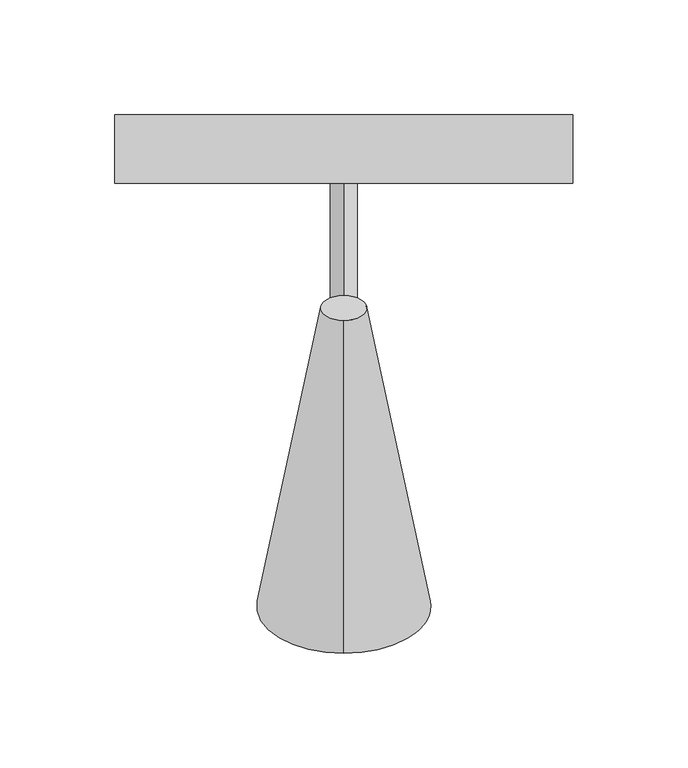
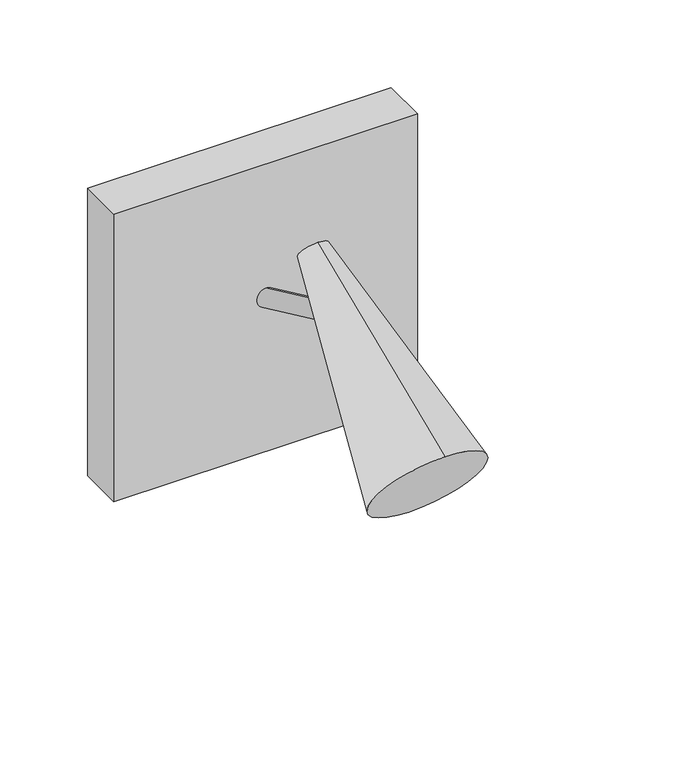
"""IFC4 building model written with IfcOpenShell, lengths in millimetres: proxy geometry, Videoüberwachungsanlage : Videoüberwachungsanlage."""

from ifc_helpers import new_model, si_unit, point, frame, origin, origin_2d, place, context, project, spatial, polyline, circle_curve, trimmed, segment, composite_curve, outline, extrude, source, transform, mapped, element, save
from ifc_brep_helpers import plane_surface, revolved_surface, advanced_brep


def electrical_fixtures_0368c62d(model_context):
    return source(origin(), model_context, "Body", "SolidModel", [
        extrude(outline(polyline([(100.0, 0.0), (100.0, -30.0), (-100.0, -30.0), (-100.0, 0.0), (100.0, 0.0)])), frame((0.0, 0.0, 1800.0), z_axis=(0.0, 0.0, 1.0), x_axis=(1.0, 0.0, 0.0)), (0.0, 0.0, 1.0), 200.0),
        extrude(outline(composite_curve([segment(trimmed(circle_curve(origin_2d(), 6.0), [point((0.0, 6.0))], [point((0.0, -6.0))], False, "CARTESIAN"), True, "CONTINUOUS"), segment(trimmed(circle_curve(origin_2d(), 6.0), [point((0.0, -6.0))], [point((0.0, 6.0))], False, "CARTESIAN"), True, "CONTINUOUS")], self_intersect=False)), frame((0.0, -14.5357096, 1900.0), z_axis=(0.0, -0.9063077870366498, 0.42261826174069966), x_axis=(-1.0, 0.0, 0.0)), (0.0, 0.0, 1.0), 118.0),
        advanced_brep(
        [(0.0, -193.6883639, 1857.0630731), (0.0, -235.0809306, 1920.8020363), (0.0, -78.9443189, 1964.9648994), (0.0, -89.8370996, 1981.7383108)],
        [
            (0, 1, circle_curve(frame((0.0, -214.3846473, 1888.9325547), z_axis=(0.0, -0.8386705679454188, -0.5446390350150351), x_axis=(0.0, 0.5446390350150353, -0.8386705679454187)), 38.0)),
            (1, 0, circle_curve(frame((0.0, -214.3846473, 1888.9325547), z_axis=(0.0, -0.8386705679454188, -0.5446390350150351), x_axis=(0.0, -0.5446390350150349, 0.8386705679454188)), 38.0)),
            (2, 3, circle_curve(frame((0.0, -84.3907092, 1973.3516051), z_axis=(0.0, 0.8386705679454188, 0.5446390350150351), x_axis=(0.0, -0.5446390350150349, 0.8386705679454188)), 10.0)),
            (3, 2, circle_curve(frame((0.0, -84.3907092, 1973.3516051), z_axis=(0.0, 0.8386705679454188, 0.5446390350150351), x_axis=(0.0, 0.5446390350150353, -0.8386705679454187)), 10.0)),
            (3, 1),
            (0, 2),
        ],
        [
            plane_surface(frame((0.0, -214.3846473, 1888.9325547), z_axis=(0.0, -0.8386705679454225, -0.5446390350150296), x_axis=(1.0, 0.0, 0.0))),
            plane_surface(frame((0.0, -84.3907092, 1973.3516051), z_axis=(0.0, 0.8386705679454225, 0.5446390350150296), x_axis=(1.0, 0.0, 0.0))),
            revolved_surface(polyline([(0.0, -89.83709957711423, 1981.738310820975), (0.0, -235.0809306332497, 1920.8020362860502)]), (0.0, -37.9643028, 2003.501266), (0.0, -0.8386705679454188, -0.5446390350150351)),
            revolved_surface(polyline([(0.0, -78.94431887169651, 1964.964899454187), (0.0, -193.6883639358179, 1857.063073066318)]), (0.0, -37.9643028, 2003.501266), (0.0, -0.8386705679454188, -0.5446390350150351)),
        ],
        [
            (0, [[1, 2]]),
            (1, [[3, 4]]),
            (2, [[-4, 5, -1, 6]]),
            (3, [[-3, -6, -2, -5]]),
        ],
    ),
    ])


if __name__ == "__main__":
    model = new_model("IFC4")
    model_context = context("Model", 3, world=origin())
    ifc_project = project(units=[si_unit("LENGTHUNIT", "METRE", prefix="MILLI")], contexts=[model_context])
    site = spatial("IfcSite", under=ifc_project)
    building = spatial("IfcBuilding", under=site)
    placement = place(None, origin())
    electrical_fixtures_shape = electrical_fixtures_0368c62d(model_context)
    element("IfcBuildingElementProxy", 1, Name="Videoüberwachungsanlage : Videoüberwachungsanlage", ObjectType="Videoüberwachungsanlage : Videoüberwachungsanlage", at=placement, inside=building, context=model_context, shape_type="MappedRepresentation", body=[
        mapped(electrical_fixtures_shape, transform((0.0, 0.0, 0.0), x_axis=(1.0, 0.0, 0.0), y_axis=(0.0, 1.0, 0.0), z_axis=(0.0, 0.0, 1.0))),
    ])
    save(model, "model.ifc")
